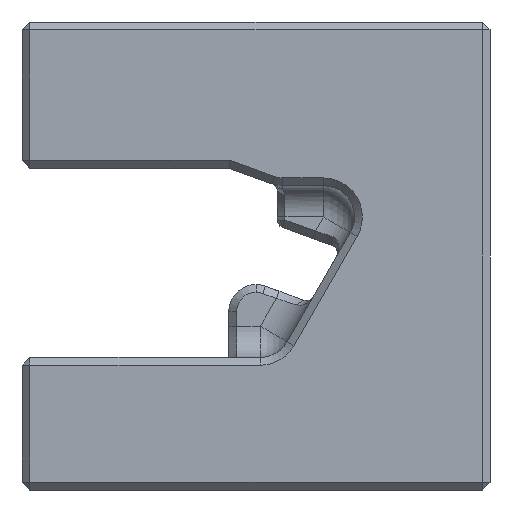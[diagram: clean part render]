
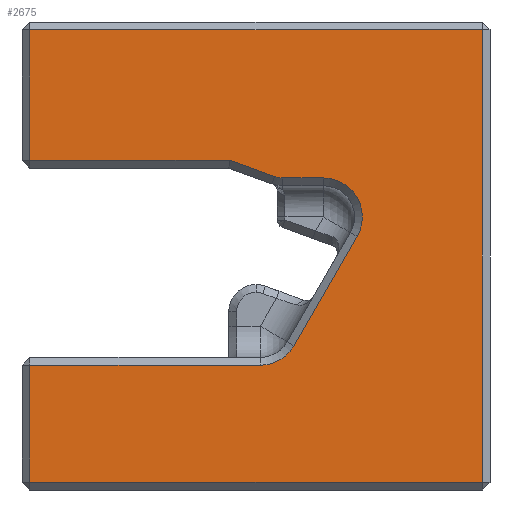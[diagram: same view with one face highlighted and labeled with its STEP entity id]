
A CAD part, front view. The second image highlights one B-rep face of the part: STEP entity #2675.
In plain terms, the highlighted planar face has unit normal (0, -1, 0).
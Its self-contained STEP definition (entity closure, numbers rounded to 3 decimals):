
#21 = VERTEX_POINT ( 'NONE', #3436 ) ;
#31 = VECTOR ( 'NONE', #2925, 1000. ) ;
#188 = VERTEX_POINT ( 'NONE', #2173 ) ;
#239 = LINE ( 'NONE', #4321, #4198 ) ;
#252 = ORIENTED_EDGE ( 'NONE', *, *, #659, .T. ) ;
#333 = EDGE_CURVE ( 'NONE', #753, #2368, #3720, .T. ) ;
#358 = EDGE_LOOP ( 'NONE', ( #1760, #3818, #2732, #2923, #2610, #4142, #1381, #2334, #4027, #4137, #4188, #1871, #252 ) ) ;
#383 = CIRCLE ( 'NONE', #513, 2.5 ) ;
#402 = VERTEX_POINT ( 'NONE', #4253 ) ;
#429 = CIRCLE ( 'NONE', #1629, 2.5 ) ;
#474 = CARTESIAN_POINT ( 'NONE',  ( -14.5, -95., 6.131 ) ) ;
#509 = CARTESIAN_POINT ( 'NONE',  ( 14.5, -95., 14.5 ) ) ;
#513 = AXIS2_PLACEMENT_3D ( 'NONE', #3157, #1831, #839 ) ;
#538 = CARTESIAN_POINT ( 'NONE',  ( 4.318, -95., -7. ) ) ;
#561 = EDGE_CURVE ( 'NONE', #402, #21, #1804, .T. ) ;
#593 = VECTOR ( 'NONE', #1088, 1000. ) ;
#659 = EDGE_CURVE ( 'NONE', #21, #753, #1495, .T. ) ;
#680 = FACE_OUTER_BOUND ( 'NONE', #358, .T. ) ;
#713 = EDGE_CURVE ( 'NONE', #1885, #4000, #383, .T. ) ;
#719 = CARTESIAN_POINT ( 'NONE',  ( 6.483, -95., 1.25 ) ) ;
#753 = VERTEX_POINT ( 'NONE', #509 ) ;
#839 = DIRECTION ( 'NONE',  ( 0., 0., 1. ) ) ;
#842 = EDGE_CURVE ( 'NONE', #3579, #1724, #2478, .T. ) ;
#878 = EDGE_CURVE ( 'NONE', #188, #1377, #3721, .T. ) ;
#923 = EDGE_CURVE ( 'NONE', #3660, #402, #3571, .T. ) ;
#1011 = VERTEX_POINT ( 'NONE', #719 ) ;
#1088 = DIRECTION ( 'NONE',  ( 0., 0., 1. ) ) ;
#1211 = CARTESIAN_POINT ( 'NONE',  ( -14.5, -95., -7. ) ) ;
#1248 = CARTESIAN_POINT ( 'NONE',  ( 0.277, -95., -7. ) ) ;
#1291 = EDGE_CURVE ( 'NONE', #2271, #188, #239, .T. ) ;
#1377 = VERTEX_POINT ( 'NONE', #1829 ) ;
#1381 = ORIENTED_EDGE ( 'NONE', *, *, #1632, .T. ) ;
#1495 = LINE ( 'NONE', #3369, #593 ) ;
#1571 = EDGE_CURVE ( 'NONE', #2368, #2271, #3880, .T. ) ;
#1577 = CARTESIAN_POINT ( 'NONE',  ( 4.318, -95., 5. ) ) ;
#1629 = AXIS2_PLACEMENT_3D ( 'NONE', #2749, #2740, #2108 ) ;
#1632 = EDGE_CURVE ( 'NONE', #1724, #1011, #429, .T. ) ;
#1648 = VECTOR ( 'NONE', #1777, 1000. ) ;
#1685 = DIRECTION ( 'NONE',  ( 0., 0., -1. ) ) ;
#1687 = CARTESIAN_POINT ( 'NONE',  ( 2.442, -95., -5.75 ) ) ;
#1707 = DIRECTION ( 'NONE',  ( 0., 0., -1. ) ) ;
#1724 = VERTEX_POINT ( 'NONE', #1577 ) ;
#1760 = ORIENTED_EDGE ( 'NONE', *, *, #333, .T. ) ;
#1777 = DIRECTION ( 'NONE',  ( 1., 0., 0. ) ) ;
#1804 = LINE ( 'NONE', #3023, #1648 ) ;
#1829 = CARTESIAN_POINT ( 'NONE',  ( 1.197, -95., 5.09 ) ) ;
#1831 = DIRECTION ( 'NONE',  ( 0., 1., 0. ) ) ;
#1871 = ORIENTED_EDGE ( 'NONE', *, *, #561, .T. ) ;
#1885 = VERTEX_POINT ( 'NONE', #4154 ) ;
#1959 = VECTOR ( 'NONE', #1685, 1000. ) ;
#1992 = LINE ( 'NONE', #538, #2765 ) ;
#2108 = DIRECTION ( 'NONE',  ( 0., 0., 1. ) ) ;
#2146 = DIRECTION ( 'NONE',  ( 0., 0., 1. ) ) ;
#2173 = CARTESIAN_POINT ( 'NONE',  ( -1.662, -95., 6.131 ) ) ;
#2271 = VERTEX_POINT ( 'NONE', #474 ) ;
#2286 = DIRECTION ( 'NONE',  ( 0.94, 0., -0.342 ) ) ;
#2295 = EDGE_CURVE ( 'NONE', #4000, #3660, #1992, .T. ) ;
#2334 = ORIENTED_EDGE ( 'NONE', *, *, #2372, .T. ) ;
#2368 = VERTEX_POINT ( 'NONE', #3367 ) ;
#2372 = EDGE_CURVE ( 'NONE', #1011, #1885, #3870, .T. ) ;
#2381 = CARTESIAN_POINT ( 'NONE',  ( -14.5, -95., -15. ) ) ;
#2478 = LINE ( 'NONE', #2595, #31 ) ;
#2560 = VECTOR ( 'NONE', #2694, 1000. ) ;
#2595 = CARTESIAN_POINT ( 'NONE',  ( 4.318, -95., 5. ) ) ;
#2610 = ORIENTED_EDGE ( 'NONE', *, *, #3526, .T. ) ;
#2675 = ADVANCED_FACE ( 'NONE', ( #680 ), #3055, .F. ) ;
#2687 = CARTESIAN_POINT ( 'NONE',  ( -14.5, -95., 5.631 ) ) ;
#2694 = DIRECTION ( 'NONE',  ( -0.5, 0., -0.866 ) ) ;
#2726 = VECTOR ( 'NONE', #1707, 1000. ) ;
#2732 = ORIENTED_EDGE ( 'NONE', *, *, #1291, .T. ) ;
#2740 = DIRECTION ( 'NONE',  ( 0., 1., 0. ) ) ;
#2749 = CARTESIAN_POINT ( 'NONE',  ( 4.318, -95., 2.5 ) ) ;
#2765 = VECTOR ( 'NONE', #2902, 1000. ) ;
#2902 = DIRECTION ( 'NONE',  ( -1., 0., 0. ) ) ;
#2923 = ORIENTED_EDGE ( 'NONE', *, *, #878, .T. ) ;
#2925 = DIRECTION ( 'NONE',  ( 1., 0., 0. ) ) ;
#2938 = AXIS2_PLACEMENT_3D ( 'NONE', #4162, #4139, #2146 ) ;
#3023 = CARTESIAN_POINT ( 'NONE',  ( 15., -95., -14.5 ) ) ;
#3055 = PLANE ( 'NONE',  #2938 ) ;
#3157 = CARTESIAN_POINT ( 'NONE',  ( 0.277, -95., -4.5 ) ) ;
#3322 = CIRCLE ( 'NONE', #3728, 1.5 ) ;
#3367 = CARTESIAN_POINT ( 'NONE',  ( -14.5, -95., 14.5 ) ) ;
#3369 = CARTESIAN_POINT ( 'NONE',  ( 14.5, -95., 15. ) ) ;
#3391 = VECTOR ( 'NONE', #4276, 1000. ) ;
#3436 = CARTESIAN_POINT ( 'NONE',  ( 14.5, -95., -14.5 ) ) ;
#3481 = CARTESIAN_POINT ( 'NONE',  ( 1.71, -95., 6.5 ) ) ;
#3526 = EDGE_CURVE ( 'NONE', #1377, #3579, #3322, .T. ) ;
#3571 = LINE ( 'NONE', #2381, #1959 ) ;
#3579 = VERTEX_POINT ( 'NONE', #3587 ) ;
#3587 = CARTESIAN_POINT ( 'NONE',  ( 1.71, -95., 5. ) ) ;
#3637 = CARTESIAN_POINT ( 'NONE',  ( 1.197, -95., 5.09 ) ) ;
#3660 = VERTEX_POINT ( 'NONE', #1211 ) ;
#3720 = LINE ( 'NONE', #4199, #3391 ) ;
#3721 = LINE ( 'NONE', #3637, #4093 ) ;
#3728 = AXIS2_PLACEMENT_3D ( 'NONE', #3481, #3827, #3841 ) ;
#3818 = ORIENTED_EDGE ( 'NONE', *, *, #1571, .T. ) ;
#3827 = DIRECTION ( 'NONE',  ( 0., -1., 0. ) ) ;
#3841 = DIRECTION ( 'NONE',  ( 0., 0., 1. ) ) ;
#3870 = LINE ( 'NONE', #1687, #2560 ) ;
#3880 = LINE ( 'NONE', #2687, #2726 ) ;
#4000 = VERTEX_POINT ( 'NONE', #1248 ) ;
#4027 = ORIENTED_EDGE ( 'NONE', *, *, #713, .T. ) ;
#4093 = VECTOR ( 'NONE', #2286, 1000. ) ;
#4137 = ORIENTED_EDGE ( 'NONE', *, *, #2295, .T. ) ;
#4139 = DIRECTION ( 'NONE',  ( 0., 1., 0. ) ) ;
#4142 = ORIENTED_EDGE ( 'NONE', *, *, #842, .T. ) ;
#4154 = CARTESIAN_POINT ( 'NONE',  ( 2.442, -95., -5.75 ) ) ;
#4162 = CARTESIAN_POINT ( 'NONE',  ( 4.318, -95., 2.5 ) ) ;
#4188 = ORIENTED_EDGE ( 'NONE', *, *, #923, .T. ) ;
#4198 = VECTOR ( 'NONE', #4311, 1000. ) ;
#4199 = CARTESIAN_POINT ( 'NONE',  ( -15., -95., 14.5 ) ) ;
#4253 = CARTESIAN_POINT ( 'NONE',  ( -14.5, -95., -14.5 ) ) ;
#4276 = DIRECTION ( 'NONE',  ( -1., 0., 0. ) ) ;
#4311 = DIRECTION ( 'NONE',  ( 1., 0., 0. ) ) ;
#4321 = CARTESIAN_POINT ( 'NONE',  ( -1.75, -95., 6.131 ) ) ;
